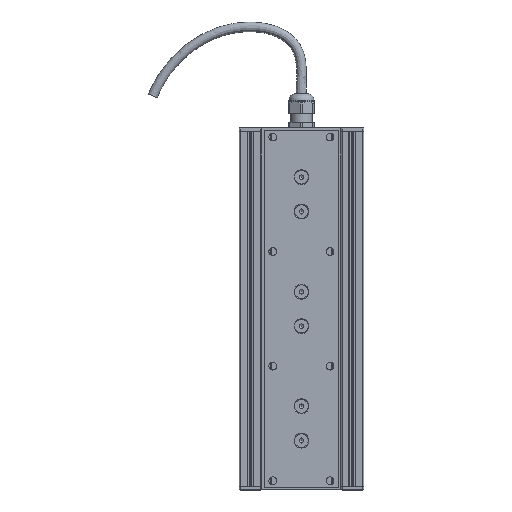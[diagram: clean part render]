
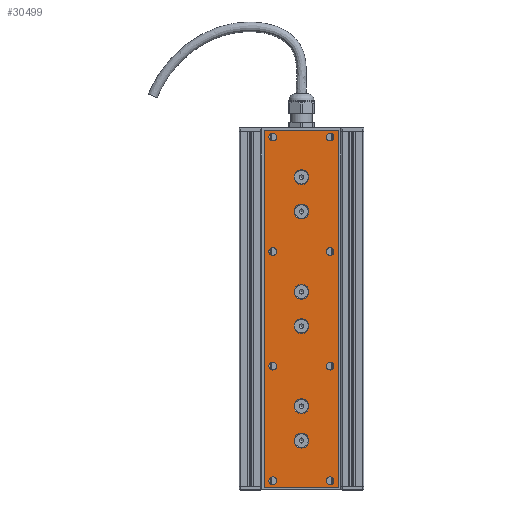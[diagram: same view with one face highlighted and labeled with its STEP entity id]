
A CAD part, top view. The second image highlights one B-rep face of the part: STEP entity #30499.
In plain terms, the highlighted planar face has unit normal (0, 0, 1).
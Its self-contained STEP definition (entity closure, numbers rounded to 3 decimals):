
#812=FACE_BOUND('',#10748,.T.);
#813=FACE_BOUND('',#10749,.T.);
#814=FACE_BOUND('',#10750,.T.);
#815=FACE_BOUND('',#10751,.T.);
#816=FACE_BOUND('',#10752,.T.);
#817=FACE_BOUND('',#10753,.T.);
#818=FACE_BOUND('',#10754,.T.);
#819=FACE_BOUND('',#10755,.T.);
#820=FACE_BOUND('',#10756,.T.);
#821=FACE_BOUND('',#10757,.T.);
#822=FACE_BOUND('',#10758,.T.);
#823=FACE_BOUND('',#10759,.T.);
#824=FACE_BOUND('',#10760,.T.);
#825=FACE_BOUND('',#10761,.T.);
#1141=PLANE('',#33836);
#2624=LINE('',#50483,#5623);
#2627=LINE('',#50489,#5626);
#2630=LINE('',#50495,#5629);
#2633=LINE('',#50499,#5632);
#5623=VECTOR('',#38898,10.);
#5626=VECTOR('',#38903,10.);
#5629=VECTOR('',#38908,10.);
#5632=VECTOR('',#38913,10.);
#9249=FACE_OUTER_BOUND('',#10747,.T.);
#10747=EDGE_LOOP('',(#24793,#24794,#24795,#24796));
#10748=EDGE_LOOP('',(#24797));
#10749=EDGE_LOOP('',(#24798));
#10750=EDGE_LOOP('',(#24799));
#10751=EDGE_LOOP('',(#24800));
#10752=EDGE_LOOP('',(#24801));
#10753=EDGE_LOOP('',(#24802));
#10754=EDGE_LOOP('',(#24803));
#10755=EDGE_LOOP('',(#24804));
#10756=EDGE_LOOP('',(#24805));
#10757=EDGE_LOOP('',(#24806));
#10758=EDGE_LOOP('',(#24807));
#10759=EDGE_LOOP('',(#24808));
#10760=EDGE_LOOP('',(#24809));
#10761=EDGE_LOOP('',(#24810));
#12686=CIRCLE('',#33779,3.39);
#12688=CIRCLE('',#33782,3.39);
#12690=CIRCLE('',#33785,3.39);
#12692=CIRCLE('',#33788,3.39);
#12694=CIRCLE('',#33791,3.39);
#12696=CIRCLE('',#33794,3.39);
#12698=CIRCLE('',#33797,3.39);
#12700=CIRCLE('',#33800,3.39);
#12702=CIRCLE('',#33803,6.5);
#12705=CIRCLE('',#33808,6.5);
#12708=CIRCLE('',#33813,6.5);
#12711=CIRCLE('',#33818,6.5);
#12714=CIRCLE('',#33823,6.5);
#12717=CIRCLE('',#33828,6.5);
#14736=VERTEX_POINT('',#50369);
#14738=VERTEX_POINT('',#50375);
#14740=VERTEX_POINT('',#50381);
#14742=VERTEX_POINT('',#50387);
#14744=VERTEX_POINT('',#50393);
#14746=VERTEX_POINT('',#50399);
#14748=VERTEX_POINT('',#50405);
#14750=VERTEX_POINT('',#50411);
#14752=VERTEX_POINT('',#50417);
#14755=VERTEX_POINT('',#50427);
#14758=VERTEX_POINT('',#50437);
#14761=VERTEX_POINT('',#50447);
#14764=VERTEX_POINT('',#50457);
#14767=VERTEX_POINT('',#50467);
#14772=VERTEX_POINT('',#50480);
#14773=VERTEX_POINT('',#50482);
#14775=VERTEX_POINT('',#50488);
#14777=VERTEX_POINT('',#50494);
#19096=EDGE_CURVE('',#14736,#14736,#12686,.T.);
#19099=EDGE_CURVE('',#14738,#14738,#12688,.T.);
#19102=EDGE_CURVE('',#14740,#14740,#12690,.T.);
#19105=EDGE_CURVE('',#14742,#14742,#12692,.T.);
#19108=EDGE_CURVE('',#14744,#14744,#12694,.T.);
#19111=EDGE_CURVE('',#14746,#14746,#12696,.T.);
#19114=EDGE_CURVE('',#14748,#14748,#12698,.T.);
#19117=EDGE_CURVE('',#14750,#14750,#12700,.T.);
#19120=EDGE_CURVE('',#14752,#14752,#12702,.T.);
#19125=EDGE_CURVE('',#14755,#14755,#12705,.T.);
#19130=EDGE_CURVE('',#14758,#14758,#12708,.T.);
#19135=EDGE_CURVE('',#14761,#14761,#12711,.T.);
#19140=EDGE_CURVE('',#14764,#14764,#12714,.T.);
#19145=EDGE_CURVE('',#14767,#14767,#12717,.T.);
#19152=EDGE_CURVE('',#14773,#14772,#2624,.T.);
#19155=EDGE_CURVE('',#14775,#14773,#2627,.T.);
#19158=EDGE_CURVE('',#14777,#14775,#2630,.T.);
#19161=EDGE_CURVE('',#14772,#14777,#2633,.T.);
#24793=ORIENTED_EDGE('',*,*,#19161,.T.);
#24794=ORIENTED_EDGE('',*,*,#19158,.T.);
#24795=ORIENTED_EDGE('',*,*,#19155,.T.);
#24796=ORIENTED_EDGE('',*,*,#19152,.T.);
#24797=ORIENTED_EDGE('',*,*,#19096,.T.);
#24798=ORIENTED_EDGE('',*,*,#19099,.T.);
#24799=ORIENTED_EDGE('',*,*,#19102,.T.);
#24800=ORIENTED_EDGE('',*,*,#19105,.T.);
#24801=ORIENTED_EDGE('',*,*,#19108,.T.);
#24802=ORIENTED_EDGE('',*,*,#19111,.T.);
#24803=ORIENTED_EDGE('',*,*,#19114,.T.);
#24804=ORIENTED_EDGE('',*,*,#19117,.T.);
#24805=ORIENTED_EDGE('',*,*,#19120,.T.);
#24806=ORIENTED_EDGE('',*,*,#19125,.T.);
#24807=ORIENTED_EDGE('',*,*,#19130,.T.);
#24808=ORIENTED_EDGE('',*,*,#19135,.T.);
#24809=ORIENTED_EDGE('',*,*,#19140,.T.);
#24810=ORIENTED_EDGE('',*,*,#19145,.T.);
#30499=ADVANCED_FACE('',(#9249,#812,#813,#814,#815,#816,#817,#818,#819,
#820,#821,#822,#823,#824,#825),#1141,.T.);
#33779=AXIS2_PLACEMENT_3D('',#50370,#38768,#38769);
#33782=AXIS2_PLACEMENT_3D('',#50376,#38775,#38776);
#33785=AXIS2_PLACEMENT_3D('',#50382,#38782,#38783);
#33788=AXIS2_PLACEMENT_3D('',#50388,#38789,#38790);
#33791=AXIS2_PLACEMENT_3D('',#50394,#38796,#38797);
#33794=AXIS2_PLACEMENT_3D('',#50400,#38803,#38804);
#33797=AXIS2_PLACEMENT_3D('',#50406,#38810,#38811);
#33800=AXIS2_PLACEMENT_3D('',#50412,#38817,#38818);
#33803=AXIS2_PLACEMENT_3D('',#50418,#38824,#38825);
#33808=AXIS2_PLACEMENT_3D('',#50428,#38836,#38837);
#33813=AXIS2_PLACEMENT_3D('',#50438,#38848,#38849);
#33818=AXIS2_PLACEMENT_3D('',#50448,#38860,#38861);
#33823=AXIS2_PLACEMENT_3D('',#50458,#38872,#38873);
#33828=AXIS2_PLACEMENT_3D('',#50468,#38884,#38885);
#33836=AXIS2_PLACEMENT_3D('',#50500,#38914,#38915);
#38768=DIRECTION('center_axis',(0.,0.,-1.));
#38769=DIRECTION('ref_axis',(1.,0.,0.));
#38775=DIRECTION('center_axis',(0.,0.,-1.));
#38776=DIRECTION('ref_axis',(1.,0.,0.));
#38782=DIRECTION('center_axis',(0.,0.,-1.));
#38783=DIRECTION('ref_axis',(1.,0.,0.));
#38789=DIRECTION('center_axis',(0.,0.,-1.));
#38790=DIRECTION('ref_axis',(1.,0.,0.));
#38796=DIRECTION('center_axis',(0.,0.,-1.));
#38797=DIRECTION('ref_axis',(1.,0.,0.));
#38803=DIRECTION('center_axis',(0.,0.,-1.));
#38804=DIRECTION('ref_axis',(1.,0.,0.));
#38810=DIRECTION('center_axis',(0.,0.,-1.));
#38811=DIRECTION('ref_axis',(1.,0.,0.));
#38817=DIRECTION('center_axis',(0.,0.,-1.));
#38818=DIRECTION('ref_axis',(1.,0.,0.));
#38824=DIRECTION('center_axis',(0.,0.,-1.));
#38825=DIRECTION('ref_axis',(1.,0.,0.));
#38836=DIRECTION('center_axis',(0.,0.,-1.));
#38837=DIRECTION('ref_axis',(1.,0.,0.));
#38848=DIRECTION('center_axis',(0.,0.,-1.));
#38849=DIRECTION('ref_axis',(1.,0.,0.));
#38860=DIRECTION('center_axis',(0.,0.,-1.));
#38861=DIRECTION('ref_axis',(1.,0.,0.));
#38872=DIRECTION('center_axis',(0.,0.,-1.));
#38873=DIRECTION('ref_axis',(1.,0.,0.));
#38884=DIRECTION('center_axis',(0.,0.,-1.));
#38885=DIRECTION('ref_axis',(1.,0.,0.));
#38898=DIRECTION('',(1.,0.,0.));
#38903=DIRECTION('',(0.,-1.,0.));
#38908=DIRECTION('',(-1.,0.,0.));
#38913=DIRECTION('',(0.,1.,0.));
#38914=DIRECTION('center_axis',(0.,0.,1.));
#38915=DIRECTION('ref_axis',(1.,0.,0.));
#50369=CARTESIAN_POINT('',(21.61,-150.,12.));
#50370=CARTESIAN_POINT('Origin',(25.,-150.,12.));
#50375=CARTESIAN_POINT('',(-28.39,-50.,12.));
#50376=CARTESIAN_POINT('Origin',(-25.,-50.,12.));
#50381=CARTESIAN_POINT('',(21.61,50.,12.));
#50382=CARTESIAN_POINT('Origin',(25.,50.,12.));
#50387=CARTESIAN_POINT('',(-28.39,150.,12.));
#50388=CARTESIAN_POINT('Origin',(-25.,150.,12.));
#50393=CARTESIAN_POINT('',(21.61,150.,12.));
#50394=CARTESIAN_POINT('Origin',(25.,150.,12.));
#50399=CARTESIAN_POINT('',(-28.39,50.,12.));
#50400=CARTESIAN_POINT('Origin',(-25.,50.,12.));
#50405=CARTESIAN_POINT('',(21.61,-50.,12.));
#50406=CARTESIAN_POINT('Origin',(25.,-50.,12.));
#50411=CARTESIAN_POINT('',(-28.39,-150.,12.));
#50412=CARTESIAN_POINT('Origin',(-25.,-150.,12.));
#50417=CARTESIAN_POINT('',(-6.5,85.,12.));
#50418=CARTESIAN_POINT('Origin',(0.,85.,12.));
#50427=CARTESIAN_POINT('',(-6.5,-15.,12.));
#50428=CARTESIAN_POINT('Origin',(0.,-15.,12.));
#50437=CARTESIAN_POINT('',(-6.5,-85.,12.));
#50438=CARTESIAN_POINT('Origin',(0.,-85.,12.));
#50447=CARTESIAN_POINT('',(-6.5,-115.,12.));
#50448=CARTESIAN_POINT('Origin',(0.,-115.,12.));
#50457=CARTESIAN_POINT('',(-6.5,15.,12.));
#50458=CARTESIAN_POINT('Origin',(0.,15.,12.));
#50467=CARTESIAN_POINT('',(-6.5,115.,12.));
#50468=CARTESIAN_POINT('Origin',(0.,115.,12.));
#50480=CARTESIAN_POINT('',(32.5,-156.,12.));
#50482=CARTESIAN_POINT('',(-32.5,-156.,12.));
#50483=CARTESIAN_POINT('',(-32.5,-156.,12.));
#50488=CARTESIAN_POINT('',(-32.5,156.,12.));
#50489=CARTESIAN_POINT('',(-32.5,156.,12.));
#50494=CARTESIAN_POINT('',(32.5,156.,12.));
#50495=CARTESIAN_POINT('',(32.5,156.,12.));
#50499=CARTESIAN_POINT('',(32.5,-156.,12.));
#50500=CARTESIAN_POINT('Origin',(0.,0.,
12.));
